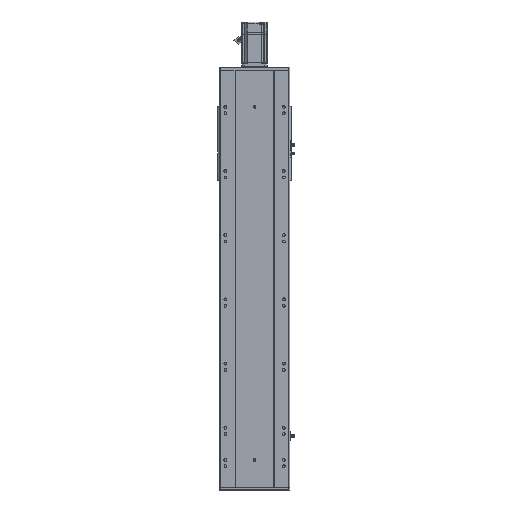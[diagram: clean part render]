
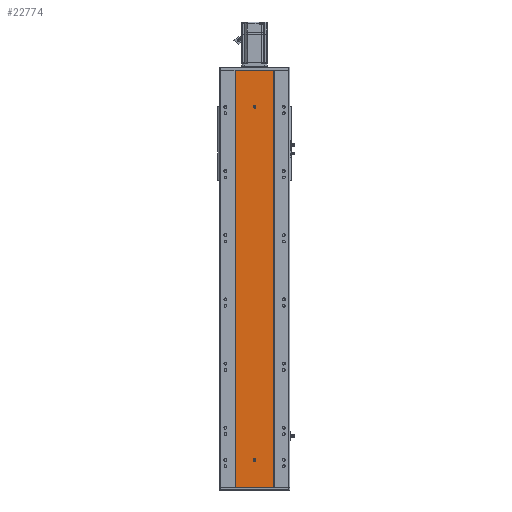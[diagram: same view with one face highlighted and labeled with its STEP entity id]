
A CAD part, front view. The second image highlights one B-rep face of the part: STEP entity #22774.
In plain terms, the highlighted planar face has unit normal (0, -1, 0).
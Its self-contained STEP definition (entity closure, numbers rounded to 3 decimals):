
#31 = EDGE_LOOP ( 'NONE', ( #54378, #69832 ) ) ;
#742 = LINE ( 'NONE', #50285, #36585 ) ;
#1266 = CARTESIAN_POINT ( 'NONE',  ( 0., 0., 84.5 ) ) ;
#2043 = LINE ( 'NONE', #54931, #69340 ) ;
#3142 = ORIENTED_EDGE ( 'NONE', *, *, #67750, .F. ) ;
#3315 = CARTESIAN_POINT ( 'NONE',  ( 0., 0., 80.5 ) ) ;
#4268 = ORIENTED_EDGE ( 'NONE', *, *, #31807, .F. ) ;
#4739 = VECTOR ( 'NONE', #34483, 1000. ) ;
#8420 = VERTEX_POINT ( 'NONE', #69947 ) ;
#8761 = VERTEX_POINT ( 'NONE', #12257 ) ;
#8847 = DIRECTION ( 'NONE',  ( 0., 0., -1. ) ) ;
#10292 = DIRECTION ( 'NONE',  ( 0., 0., -1. ) ) ;
#11005 = DIRECTION ( 'NONE',  ( 0., -1., 0. ) ) ;
#11384 = CARTESIAN_POINT ( 'NONE',  ( 60., 0., 0. ) ) ;
#12257 = CARTESIAN_POINT ( 'NONE',  ( 4., 0., 84.5 ) ) ;
#12281 = CARTESIAN_POINT ( 'NONE',  ( -60., 0., 0. ) ) ;
#13038 = CIRCLE ( 'NONE', #57448, 4. ) ;
#13299 = CIRCLE ( 'NONE', #71320, 4. ) ;
#17908 = EDGE_CURVE ( 'NONE', #8420, #19832, #13038, .T. ) ;
#18008 = VECTOR ( 'NONE', #51918, 1000. ) ;
#18698 = AXIS2_PLACEMENT_3D ( 'NONE', #20258, #37108, #65417 ) ;
#19766 = DIRECTION ( 'NONE',  ( 0., -1., 0. ) ) ;
#19832 = VERTEX_POINT ( 'NONE', #58006 ) ;
#20258 = CARTESIAN_POINT ( 'NONE',  ( 0., 0., 87.5 ) ) ;
#21098 = ORIENTED_EDGE ( 'NONE', *, *, #70911, .F. ) ;
#21329 = ORIENTED_EDGE ( 'NONE', *, *, #58277, .T. ) ;
#21835 = FACE_BOUND ( 'NONE', #31, .T. ) ;
#22691 = CARTESIAN_POINT ( 'NONE',  ( -60., 0., 1300. ) ) ;
#22774 = ADVANCED_FACE ( 'NONE', ( #21835, #28867, #23578 ), #53231, .F. ) ;
#23578 = FACE_OUTER_BOUND ( 'NONE', #60160, .T. ) ;
#24662 = CIRCLE ( 'NONE', #32271, 4. ) ;
#26864 = DIRECTION ( 'NONE',  ( 0., 0., -1. ) ) ;
#26975 = DIRECTION ( 'NONE',  ( 0., 0., -1. ) ) ;
#26987 = VERTEX_POINT ( 'NONE', #42085 ) ;
#27475 = DIRECTION ( 'NONE',  ( 0., -1., 0. ) ) ;
#27891 = VECTOR ( 'NONE', #8847, 1000. ) ;
#28867 = FACE_BOUND ( 'NONE', #41140, .T. ) ;
#29673 = CARTESIAN_POINT ( 'NONE',  ( -60., 0., 1300. ) ) ;
#30102 = DIRECTION ( 'NONE',  ( 0., 0., -1. ) ) ;
#31803 = VERTEX_POINT ( 'NONE', #12281 ) ;
#31807 = EDGE_CURVE ( 'NONE', #50707, #35018, #24662, .T. ) ;
#32271 = AXIS2_PLACEMENT_3D ( 'NONE', #1266, #46473, #30102 ) ;
#33815 = EDGE_CURVE ( 'NONE', #52602, #50707, #72420, .T. ) ;
#34483 = DIRECTION ( 'NONE',  ( 1., 0., 0. ) ) ;
#35018 = VERTEX_POINT ( 'NONE', #3315 ) ;
#35065 = CARTESIAN_POINT ( 'NONE',  ( 4., 0., 84.5 ) ) ;
#36585 = VECTOR ( 'NONE', #44420, 1000. ) ;
#37108 = DIRECTION ( 'NONE',  ( 0., -1., 0. ) ) ;
#37206 = LINE ( 'NONE', #29673, #18008 ) ;
#41140 = EDGE_LOOP ( 'NONE', ( #3142, #21098, #4268, #44260, #66543 ) ) ;
#41626 = EDGE_CURVE ( 'NONE', #26987, #52602, #50824, .T. ) ;
#42085 = CARTESIAN_POINT ( 'NONE',  ( 4., 0., 87.5 ) ) ;
#42663 = ORIENTED_EDGE ( 'NONE', *, *, #43313, .T. ) ;
#43055 = AXIS2_PLACEMENT_3D ( 'NONE', #64443, #64679, #69349 ) ;
#43313 = EDGE_CURVE ( 'NONE', #31803, #58229, #742, .T. ) ;
#44260 = ORIENTED_EDGE ( 'NONE', *, *, #33815, .F. ) ;
#44420 = DIRECTION ( 'NONE',  ( 1., 0., 0. ) ) ;
#45834 = CARTESIAN_POINT ( 'NONE',  ( 60., 0., 1300. ) ) ;
#46473 = DIRECTION ( 'NONE',  ( 0., -1., 0. ) ) ;
#46564 = CARTESIAN_POINT ( 'NONE',  ( -4., 0., 84.5 ) ) ;
#47034 = CARTESIAN_POINT ( 'NONE',  ( -4., 0., 87.5 ) ) ;
#47917 = CIRCLE ( 'NONE', #52867, 4. ) ;
#49059 = DIRECTION ( 'NONE',  ( 0., 0., -1. ) ) ;
#50285 = CARTESIAN_POINT ( 'NONE',  ( -60., 0., 0. ) ) ;
#50707 = VERTEX_POINT ( 'NONE', #46564 ) ;
#50726 = VERTEX_POINT ( 'NONE', #45834 ) ;
#50824 = CIRCLE ( 'NONE', #18698, 4. ) ;
#51761 = EDGE_CURVE ( 'NONE', #66178, #50726, #69464, .T. ) ;
#51918 = DIRECTION ( 'NONE',  ( 0., 0., -1. ) ) ;
#52602 = VERTEX_POINT ( 'NONE', #47034 ) ;
#52816 = ORIENTED_EDGE ( 'NONE', *, *, #51761, .F. ) ;
#52867 = AXIS2_PLACEMENT_3D ( 'NONE', #72026, #11005, #10292 ) ;
#53135 = VECTOR ( 'NONE', #57774, 1000. ) ;
#53231 = PLANE ( 'NONE',  #43055 ) ;
#53473 = CARTESIAN_POINT ( 'NONE',  ( 0., 0., 1186. ) ) ;
#54378 = ORIENTED_EDGE ( 'NONE', *, *, #17908, .F. ) ;
#54821 = CARTESIAN_POINT ( 'NONE',  ( 0., 0., 84.5 ) ) ;
#54931 = CARTESIAN_POINT ( 'NONE',  ( 60., 0., 1300. ) ) ;
#55990 = CARTESIAN_POINT ( 'NONE',  ( -60., 0., 1300. ) ) ;
#56762 = EDGE_CURVE ( 'NONE', #19832, #8420, #47917, .T. ) ;
#57448 = AXIS2_PLACEMENT_3D ( 'NONE', #53473, #19766, #26864 ) ;
#57774 = DIRECTION ( 'NONE',  ( 0., 0., 1. ) ) ;
#58006 = CARTESIAN_POINT ( 'NONE',  ( 0., 0., 1190. ) ) ;
#58229 = VERTEX_POINT ( 'NONE', #11384 ) ;
#58277 = EDGE_CURVE ( 'NONE', #66178, #31803, #37206, .T. ) ;
#60094 = LINE ( 'NONE', #35065, #53135 ) ;
#60160 = EDGE_LOOP ( 'NONE', ( #42663, #64831, #52816, #21329 ) ) ;
#64443 = CARTESIAN_POINT ( 'NONE',  ( -60., 0., 1300. ) ) ;
#64679 = DIRECTION ( 'NONE',  ( 0., 1., 0. ) ) ;
#64831 = ORIENTED_EDGE ( 'NONE', *, *, #68798, .F. ) ;
#65417 = DIRECTION ( 'NONE',  ( 0., 0., -1. ) ) ;
#66178 = VERTEX_POINT ( 'NONE', #22691 ) ;
#66543 = ORIENTED_EDGE ( 'NONE', *, *, #41626, .F. ) ;
#67750 = EDGE_CURVE ( 'NONE', #8761, #26987, #60094, .T. ) ;
#68798 = EDGE_CURVE ( 'NONE', #50726, #58229, #2043, .T. ) ;
#69340 = VECTOR ( 'NONE', #49059, 1000. ) ;
#69349 = DIRECTION ( 'NONE',  ( 0., 0., 1. ) ) ;
#69419 = CARTESIAN_POINT ( 'NONE',  ( -4., 0., 84.5 ) ) ;
#69464 = LINE ( 'NONE', #55990, #4739 ) ;
#69832 = ORIENTED_EDGE ( 'NONE', *, *, #56762, .F. ) ;
#69947 = CARTESIAN_POINT ( 'NONE',  ( 0., 0., 1182. ) ) ;
#70911 = EDGE_CURVE ( 'NONE', #35018, #8761, #13299, .T. ) ;
#71320 = AXIS2_PLACEMENT_3D ( 'NONE', #54821, #27475, #26975 ) ;
#72026 = CARTESIAN_POINT ( 'NONE',  ( 0., 0., 1186. ) ) ;
#72420 = LINE ( 'NONE', #69419, #27891 ) ;
